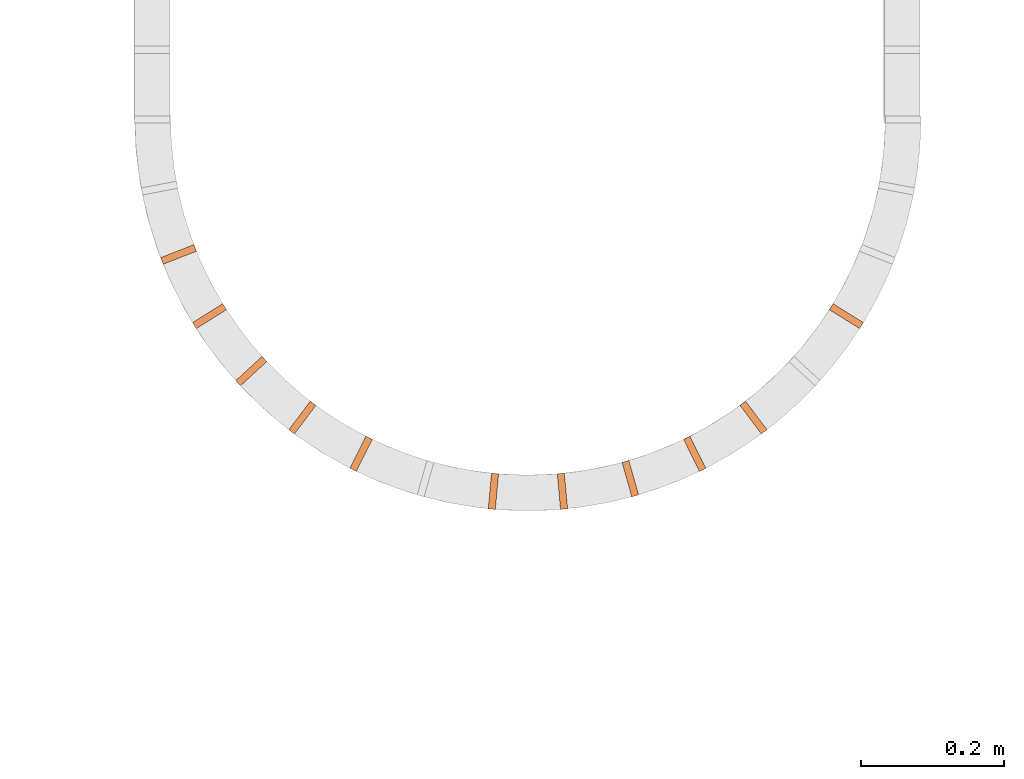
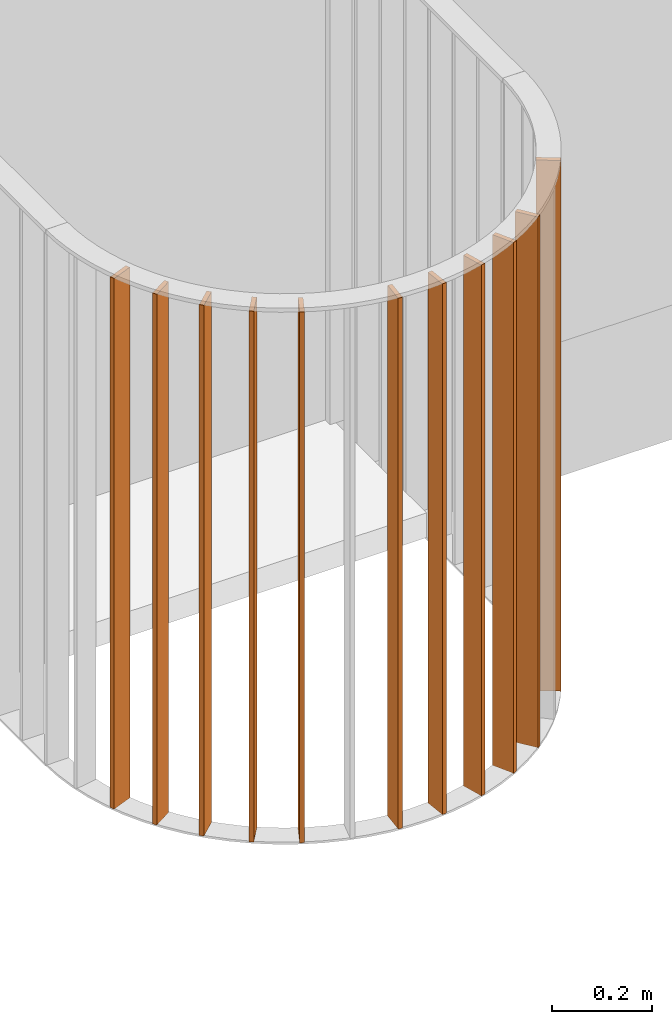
# One storey, part 89 of 100: 11 proxies, 1 element without a shape of its own.
"""IFC2X3 building model written with IfcOpenShell, lengths in millimetres."""

from ifc_helpers import new_model, entity, si_unit, converted_unit, derived_unit, money_unit, direction, frame, origin_with_axes, place, context, subcontext, project, spatial, faceted_brep, material, type_object, element, aggregate, save


model = new_model("IFC2X3")

# Units and contexts
model_context = context("Model", 3, precision=0.01, world=origin_with_axes(), true_north=direction((0.0, 1.0)))
body_context = subcontext(model_context, "Body", "Model", "MODEL_VIEW")
ifc_project = project(units=[si_unit("LENGTHUNIT", "METRE", prefix="MILLI"), si_unit("AREAUNIT", "SQUARE_METRE"), si_unit("VOLUMEUNIT", "CUBIC_METRE"), converted_unit("PLANEANGLEUNIT", "DEGREE", entity("IfcPlaneAngleMeasure", 0.0174532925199), si_unit("PLANEANGLEUNIT", "RADIAN"), dimensions=[0, 0, 0, 0, 0, 0, 0]), si_unit("SOLIDANGLEUNIT", "STERADIAN"), money_unit("EUR"), converted_unit("TIMEUNIT", "Year", entity("IfcTimeMeasure", 31556926.0), si_unit("TIMEUNIT", "SECOND"), dimensions=[0, 0, 1, 0, 0, 0, 0]), si_unit("MASSUNIT", "GRAM", prefix="KILO"), si_unit("THERMODYNAMICTEMPERATUREUNIT", "DEGREE_CELSIUS"), si_unit("LUMINOUSINTENSITYUNIT", "LUMEN"), si_unit("ENERGYUNIT", "JOULE", prefix="MEGA"), derived_unit("THERMALCONDUCTANCEUNIT", [(si_unit("POWERUNIT", "WATT"), 1), (si_unit("LENGTHUNIT", "METRE"), -1), (si_unit("THERMODYNAMICTEMPERATUREUNIT", "KELVIN"), -1)]), derived_unit("SPECIFICHEATCAPACITYUNIT", [(si_unit("ENERGYUNIT", "JOULE"), 1), (si_unit("MASSUNIT", "GRAM", prefix="KILO"), -1), (si_unit("THERMODYNAMICTEMPERATUREUNIT", "KELVIN"), -1)]), derived_unit("MASSDENSITYUNIT", [(si_unit("MASSUNIT", "GRAM", prefix="KILO"), 1), (si_unit("VOLUMEUNIT", "CUBIC_METRE"), -1)])], contexts=[model_context])

# Site, building, storey
site_placement = place(None, origin_with_axes())
site = spatial("IfcSite", under=ifc_project, at=site_placement, Name="Politse- ja Piirivalveameti ning Päästeameti ühishoone", CompositionType="ELEMENT")
building_placement = place(site_placement, origin_with_axes())
building = spatial("IfcBuilding", under=site, at=building_placement, Name="Politse- ja Piirivalveameti ning Päästeameti ühishoone", CompositionType="ELEMENT")
storey_placement = place(building_placement, frame((0.0, 0.0, 3800.0), z_axis=(0.0, 0.0, 1.0), x_axis=(1.0, 0.0, 0.0)))
storey = spatial("IfcBuildingStorey", under=building, at=storey_placement, Name="Teine korrus", CompositionType="ELEMENT", Elevation=3800.0)

# Railing, proxies
railing_type = type_object("IfcRailingType", Name="Railing Type", PredefinedType="NOTDEFINED")
railing_placement = place(storey_placement, frame((50863.781002, 13503.4839416, -60.5112732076), z_axis=(0.0, 0.0, 1.0), x_axis=(1.0, 0.0, 0.0)))
railing = element("IfcRailing", 1, at=railing_placement, inside=storey, type_object=railing_type, Name="PIIRE 13", PredefinedType="NOTDEFINED")
ifc_material = material(Name="Teras - Konstruktsioon")
building_element_proxy_type = type_object("IfcBuildingElementProxyType", Name="IfcBuildingElementProxy", PredefinedType="NOTDEFINED")
proxy_1_placement = place(railing_placement, frame((-54.5232202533, -1701.42527344, -1.25516996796e-05), z_axis=(0.0, 0.0, 1.0), x_axis=(1.0, 0.0, 0.0)))
proxy_1 = element("IfcBuildingElementProxy", 2, at=proxy_1_placement, type_object=building_element_proxy_type, material=ifc_material, Name="BALUSTER - 001", context=body_context, shape_type="Brep", body=[
    faceted_brep([(-23.8612070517, 8.98013351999, 0.0), (18.5718320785, -17.466741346, 0.0), (18.5718320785, -17.466741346, 1290.00001255), (-23.8612070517, 8.98013351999, 1290.00001255), (-18.5718320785, 17.466741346, 0.0), (23.8612070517, -8.98013351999, 0.0), (23.8612070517, -8.98013352, 1290.00001255), (-18.5718320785, 17.466741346, 1290.00001255)], [[[0, 1, 2, 3]], [[0, 4, 5, 1]], [[1, 5, 6, 2]], [[3, 2, 6, 7]], [[4, 0, 3, 7]], [[5, 4, 7, 6]]]),
])
proxy_2_placement = place(railing_placement, frame((-184.597051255, -1843.41970869, -1.25516996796e-05), z_axis=(0.0, 0.0, 1.0), x_axis=(1.0, 0.0, 0.0)))
proxy_2 = element("IfcBuildingElementProxy", 3, at=proxy_2_placement, type_object=building_element_proxy_type, material=ifc_material, Name="BALUSTER - 001", context=body_context, shape_type="Brep", body=[
    faceted_brep([(-19.0241291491, 16.9729935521, 0.0), (11.0326601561, -22.9843514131, 0.0), (11.0326601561, -22.9843514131, 1290.00001255), (-19.0241291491, 16.9729935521, 1290.00001255), (-11.0326601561, 22.9843514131, 0.0), (19.0241291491, -16.9729935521, 0.0), (19.0241291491, -16.9729935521, 1290.00001255), (-11.0326601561, 22.9843514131, 1290.00001255)], [[[0, 1, 2, 3]], [[0, 4, 5, 1]], [[1, 5, 6, 2]], [[3, 2, 6, 7]], [[4, 0, 3, 7]], [[5, 4, 7, 6]]]),
])
proxy_3_placement = place(railing_placement, frame((-266.888906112, -1894.1897077, -1.25516996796e-05), z_axis=(0.0, 0.0, 1.0), x_axis=(1.0, 0.0, 0.0)))
proxy_3 = element("IfcBuildingElementProxy", 4, at=proxy_3_placement, type_object=building_element_proxy_type, material=ifc_material, Name="BALUSTER - 001", context=body_context, shape_type="Brep", body=[
    faceted_brep([(-15.5922470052, 20.171312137, 0.0), (6.63464641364, -24.6166908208, 0.0), (6.63464641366, -24.6166908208, 1290.00001255), (-15.5922470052, 20.171312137, 1290.00001255), (-6.63464641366, 24.6166908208, 0.0), (15.5922470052, -20.171312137, 0.0), (15.5922470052, -20.171312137, 1290.00001255), (-6.63464641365, 24.6166908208, 1290.00001255)], [[[0, 1, 2, 3]], [[0, 4, 5, 1]], [[1, 5, 6, 2]], [[3, 2, 6, 7]], [[4, 0, 3, 7]], [[5, 4, 7, 6]]]),
])
proxy_4_placement = place(railing_placement, frame((-357.089882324, -1929.02253799, -1.25516996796e-05), z_axis=(0.0, 0.0, 1.0), x_axis=(1.0, 0.0, 0.0)))
proxy_4 = element("IfcBuildingElementProxy", 5, at=proxy_4_placement, type_object=building_element_proxy_type, material=ifc_material, Name="BALUSTER - 001", context=body_context, shape_type="Brep", body=[
    faceted_brep([(-11.6324579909, 22.6866903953, 0.0), (2.01200337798, -25.415582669, 0.0), (2.012003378, -25.415582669, 1290.00001255), (-11.6324579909, 22.6866903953, 1290.00001255), (-2.012003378, 25.415582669, 0.0), (11.6324579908, -22.6866903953, 0.0), (11.6324579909, -22.6866903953, 1290.00001255), (-2.01200337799, 25.415582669, 1290.00001255)], [[[0, 1, 2, 3]], [[0, 4, 5, 1]], [[1, 5, 6, 2]], [[3, 2, 6, 7]], [[4, 0, 3, 7]], [[5, 4, 7, 6]]]),
])
proxy_5_placement = place(railing_placement, frame((-452.146044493, -1946.73886405, -1.25516996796e-05), z_axis=(0.0, 0.0, 1.0), x_axis=(1.0, 0.0, 0.0)))
proxy_5 = element("IfcBuildingElementProxy", 6, at=proxy_5_placement, type_object=building_element_proxy_type, material=ifc_material, Name="BALUSTER - 001", context=body_context, shape_type="Brep", body=[
    faceted_brep([(-7.27882872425, 24.4339651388, 0.0), (-2.67876007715, -25.3539788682, 0.0), (-2.67876007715, -25.3539788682, 1290.00001255), (-7.27882872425, 24.4339651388, 1290.00001255), (2.67876007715, 25.3539788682, 0.0), (7.27882872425, -24.4339651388, 0.0), (7.27882872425, -24.4339651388, 1290.00001255), (2.67876007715, 25.3539788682, 1290.00001255)], [[[0, 1, 2, 3]], [[0, 4, 5, 1]], [[1, 5, 6, 2]], [[3, 2, 6, 7]], [[4, 0, 3, 7]], [[5, 4, 7, 6]]]),
])
proxy_6_placement = place(railing_placement, frame((-548.839075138, -1946.73886405, -1.25516996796e-05), z_axis=(0.0, 0.0, 1.0), x_axis=(1.0, 0.0, 0.0)))
proxy_6 = element("IfcBuildingElementProxy", 7, at=proxy_6_placement, type_object=building_element_proxy_type, material=ifc_material, Name="BALUSTER - 001", context=body_context, shape_type="Brep", body=[
    faceted_brep([(-2.67876007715, 25.3539788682, 0.0), (-7.27882872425, -24.4339651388, 0.0), (-7.27882872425, -24.4339651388, 1290.00001255), (-2.67876007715, 25.3539788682, 1290.00001255), (7.27882872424, 24.4339651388, 0.0), (2.67876007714, -25.3539788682, 0.0), (2.67876007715, -25.3539788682, 1290.00001255), (7.27882872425, 24.4339651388, 1290.00001255)], [[[0, 1, 2, 3]], [[0, 4, 5, 1]], [[1, 5, 6, 2]], [[3, 2, 6, 7]], [[4, 0, 3, 7]], [[5, 4, 7, 6]]]),
])
proxy_7_placement = place(railing_placement, frame((-734.096213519, -1894.1897077, -1.25516996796e-05), z_axis=(0.0, 0.0, 1.0), x_axis=(1.0, 0.0, 0.0)))
proxy_7 = element("IfcBuildingElementProxy", 8, at=proxy_7_placement, type_object=building_element_proxy_type, material=ifc_material, Name="BALUSTER - 001", context=body_context, shape_type="Brep", body=[
    faceted_brep([(6.63464641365, 24.6166908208, 0.0), (-15.5922470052, -20.171312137, 0.0), (-15.5922470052, -20.171312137, 1290.00001255), (6.63464641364, 24.6166908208, 1290.00001255), (15.5922470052, 20.171312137, 0.0), (-6.63464641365, -24.6166908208, 0.0), (-6.63464641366, -24.6166908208, 1290.00001255), (15.5922470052, 20.171312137, 1290.00001255)], [[[0, 1, 2, 3]], [[0, 4, 5, 1]], [[1, 5, 6, 2]], [[3, 2, 6, 7]], [[4, 0, 3, 7]], [[5, 4, 7, 6]]]),
])
proxy_8_placement = place(railing_placement, frame((-816.388068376, -1843.41970869, -1.25516996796e-05), z_axis=(0.0, 0.0, 1.0), x_axis=(1.0, 0.0, 0.0)))
proxy_8 = element("IfcBuildingElementProxy", 9, at=proxy_8_placement, type_object=building_element_proxy_type, material=ifc_material, Name="BALUSTER - 001", context=body_context, shape_type="Brep", body=[
    faceted_brep([(11.0326601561, 22.9843514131, 0.0), (-19.0241291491, -16.9729935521, 0.0), (-19.0241291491, -16.9729935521, 1290.00001255), (11.0326601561, 22.9843514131, 1290.00001255), (19.0241291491, 16.9729935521, 0.0), (-11.0326601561, -22.9843514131, 0.0), (-11.0326601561, -22.9843514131, 1290.00001255), (19.0241291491, 16.9729935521, 1290.00001255)], [[[0, 1, 2, 3]], [[0, 4, 5, 1]], [[1, 5, 6, 2]], [[3, 2, 6, 7]], [[4, 0, 3, 7]], [[5, 4, 7, 6]]]),
])
proxy_9_placement = place(railing_placement, frame((-887.984645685, -1778.43146135, -1.25516996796e-05), z_axis=(0.0, 0.0, 1.0), x_axis=(1.0, 0.0, 0.0)))
proxy_9 = element("IfcBuildingElementProxy", 10, at=proxy_9_placement, type_object=building_element_proxy_type, material=ifc_material, Name="BALUSTER - 001", context=body_context, shape_type="Brep", body=[
    faceted_brep([(15.0571410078, 20.5738305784, 0.0), (-21.8119111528, -13.2000201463, 0.0), (-21.8119111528, -13.2000201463, 1290.00001255), (15.0571410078, 20.5738305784, 1290.00001255), (21.8119111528, 13.2000201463, 0.0), (-15.0571410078, -20.5738305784, 0.0), (-15.0571410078, -20.5738305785, 1290.00001255), (21.8119111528, 13.2000201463, 1290.00001255)], [[[0, 1, 2, 3]], [[0, 4, 5, 1]], [[1, 5, 6, 2]], [[3, 2, 6, 7]], [[4, 0, 3, 7]], [[5, 4, 7, 6]]]),
])
proxy_10_placement = place(railing_placement, frame((-946.461899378, -1701.42527344, -1.25516996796e-05), z_axis=(0.0, 0.0, 1.0), x_axis=(1.0, 0.0, 0.0)))
proxy_10 = element("IfcBuildingElementProxy", 11, at=proxy_10_placement, type_object=building_element_proxy_type, material=ifc_material, Name="BALUSTER - 001", context=body_context, shape_type="Brep", body=[
    faceted_brep([(18.5718320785, 17.466741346, 0.0), (-23.8612070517, -8.98013351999, 0.0), (-23.8612070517, -8.98013352, 1290.00001255), (18.5718320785, 17.466741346, 1290.00001255), (23.8612070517, 8.98013352, 0.0), (-18.5718320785, -17.466741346, 0.0), (-18.5718320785, -17.466741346, 1290.00001255), (23.8612070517, 8.98013351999, 1290.00001255)], [[[0, 1, 2, 3]], [[0, 4, 5, 1]], [[1, 5, 6, 2]], [[3, 2, 6, 7]], [[4, 0, 3, 7]], [[5, 4, 7, 6]]]),
])
proxy_11_placement = place(railing_placement, frame((-989.839964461, -1615.00834428, -1.25516996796e-05), z_axis=(0.0, 0.0, 1.0), x_axis=(1.0, 0.0, 0.0)))
proxy_11 = element("IfcBuildingElementProxy", 12, at=proxy_11_placement, type_object=building_element_proxy_type, material=ifc_material, Name="BALUSTER - 001", context=body_context, shape_type="Brep", body=[
    faceted_brep([(21.4577364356, 13.7682804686, 0.0), (-25.1026338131, -4.45620641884, 0.0), (-25.1026338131, -4.45620641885, 1290.00001255), (21.4577364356, 13.7682804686, 1290.00001255), (25.1026338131, 4.45620641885, 0.0), (-21.4577364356, -13.7682804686, 0.0), (-21.4577364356, -13.7682804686, 1290.00001255), (25.1026338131, 4.45620641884, 1290.00001255)], [[[0, 1, 2, 3]], [[0, 4, 5, 1]], [[1, 5, 6, 2]], [[3, 2, 6, 7]], [[4, 0, 3, 7]], [[5, 4, 7, 6]]]),
])
aggregate(railing, [proxy_1, proxy_2, proxy_3, proxy_4, proxy_5, proxy_6, proxy_7, proxy_8, proxy_9, proxy_10, proxy_11])

save(model, "model.ifc")
